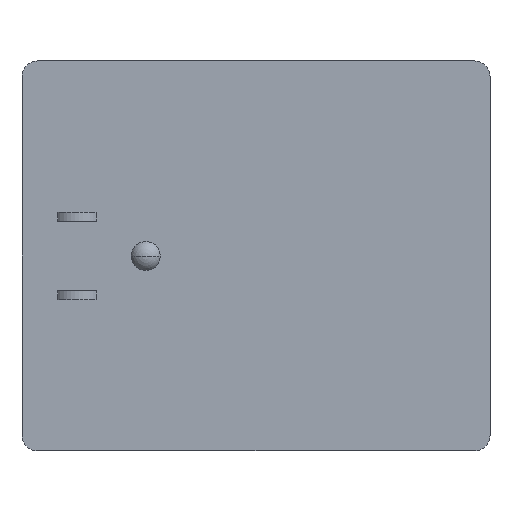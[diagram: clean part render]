
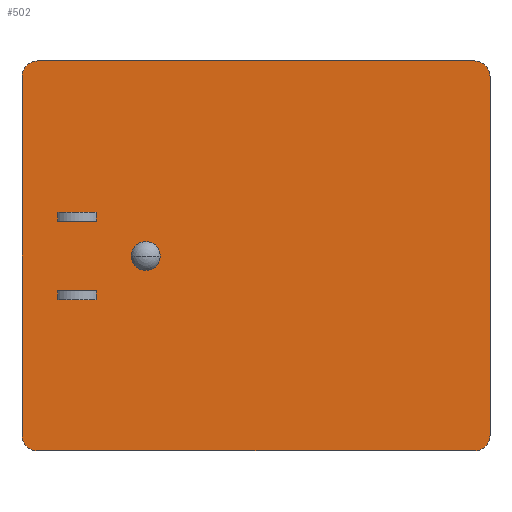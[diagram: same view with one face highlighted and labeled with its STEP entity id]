
A CAD part, front view. The second image highlights one B-rep face of the part: STEP entity #502.
In plain terms, the highlighted planar face has unit normal (0, -1, 0).
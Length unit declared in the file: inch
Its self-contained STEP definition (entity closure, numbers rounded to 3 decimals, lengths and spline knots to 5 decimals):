
#1=CARTESIAN_POINT('',(-1.4,0.,-1.15));
#2=DIRECTION('',(0.,-1.,0.));
#3=DIRECTION('',(-1.,0.,0.));
#4=AXIS2_PLACEMENT_3D('',#1,#2,#3);
#6=DIRECTION('',(0.,0.,1.));
#7=VECTOR('',#6,2.3);
#8=CARTESIAN_POINT('',(-1.5,0.,-1.15));
#9=LINE('',#8,#7);
#10=CARTESIAN_POINT('',(-1.4,0.,1.15));
#11=DIRECTION('',(0.,-1.,0.));
#12=DIRECTION('',(0.,0.,1.));
#13=AXIS2_PLACEMENT_3D('',#10,#11,#12);
#15=DIRECTION('',(1.,0.,0.));
#16=VECTOR('',#15,2.8);
#17=CARTESIAN_POINT('',(-1.4,0.,1.25));
#18=LINE('',#17,#16);
#19=CARTESIAN_POINT('',(1.4,0.,1.15));
#20=DIRECTION('',(0.,-1.,0.));
#21=DIRECTION('',(1.,0.,0.));
#22=AXIS2_PLACEMENT_3D('',#19,#20,#21);
#24=DIRECTION('',(0.,0.,-1.));
#25=VECTOR('',#24,2.3);
#26=CARTESIAN_POINT('',(1.5,0.,1.15));
#27=LINE('',#26,#25);
#28=CARTESIAN_POINT('',(1.4,0.,-1.15));
#29=DIRECTION('',(0.,-1.,0.));
#30=DIRECTION('',(0.,0.,-1.));
#31=AXIS2_PLACEMENT_3D('',#28,#29,#30);
#33=DIRECTION('',(-1.,0.,0.));
#34=VECTOR('',#33,2.8);
#35=CARTESIAN_POINT('',(1.4,0.,-1.25));
#36=LINE('',#35,#34);
#37=CARTESIAN_POINT('',(-0.7065,0.,0.));
#38=DIRECTION('',(0.,-1.,0.));
#39=DIRECTION('',(1.,0.,0.));
#40=AXIS2_PLACEMENT_3D('',#37,#38,#39);
#42=CARTESIAN_POINT('',(-0.7065,0.,0.));
#43=DIRECTION('',(0.,-1.,0.));
#44=DIRECTION('',(-1.,0.,0.));
#45=AXIS2_PLACEMENT_3D('',#42,#43,#44);
#47=DIRECTION('',(0.,0.,-1.));
#48=VECTOR('',#47,0.056);
#49=CARTESIAN_POINT('',(-1.271,0.,0.279));
#50=LINE('',#49,#48);
#51=DIRECTION('',(1.,0.,0.));
#52=VECTOR('',#51,0.246);
#53=CARTESIAN_POINT('',(-1.271,0.,0.223));
#54=LINE('',#53,#52);
#55=DIRECTION('',(0.,0.,1.));
#56=VECTOR('',#55,0.056);
#57=CARTESIAN_POINT('',(-1.025,0.,0.223));
#58=LINE('',#57,#56);
#59=DIRECTION('',(-1.,0.,0.));
#60=VECTOR('',#59,0.246);
#61=CARTESIAN_POINT('',(-1.025,0.,0.279));
#62=LINE('',#61,#60);
#63=DIRECTION('',(0.,0.,-1.));
#64=VECTOR('',#63,0.056);
#65=CARTESIAN_POINT('',(-1.271,0.,-0.223));
#66=LINE('',#65,#64);
#67=DIRECTION('',(1.,0.,0.));
#68=VECTOR('',#67,0.246);
#69=CARTESIAN_POINT('',(-1.271,0.,-0.279));
#70=LINE('',#69,#68);
#71=DIRECTION('',(0.,0.,1.));
#72=VECTOR('',#71,0.056);
#73=CARTESIAN_POINT('',(-1.025,0.,-0.279));
#74=LINE('',#73,#72);
#75=DIRECTION('',(-1.,0.,0.));
#76=VECTOR('',#75,0.246);
#77=CARTESIAN_POINT('',(-1.025,0.,-0.223));
#78=LINE('',#77,#76);
#355=CARTESIAN_POINT('',(-0.614,0.,0.));
#356=CARTESIAN_POINT('',(-0.799,0.,0.));
#357=VERTEX_POINT('',#355);
#358=VERTEX_POINT('',#356);
#359=CARTESIAN_POINT('',(-1.271,0.,0.279));
#360=CARTESIAN_POINT('',(-1.271,0.,0.223));
#361=VERTEX_POINT('',#359);
#362=VERTEX_POINT('',#360);
#363=CARTESIAN_POINT('',(-1.025,0.,0.223));
#364=VERTEX_POINT('',#363);
#365=CARTESIAN_POINT('',(-1.025,0.,0.279));
#366=VERTEX_POINT('',#365);
#367=CARTESIAN_POINT('',(-1.271,0.,-0.223));
#368=CARTESIAN_POINT('',(-1.271,0.,-0.279));
#369=VERTEX_POINT('',#367);
#370=VERTEX_POINT('',#368);
#371=CARTESIAN_POINT('',(-1.025,0.,-0.279));
#372=VERTEX_POINT('',#371);
#373=CARTESIAN_POINT('',(-1.025,0.,-0.223));
#374=VERTEX_POINT('',#373);
#421=CARTESIAN_POINT('',(-1.5,0.,-1.15));
#422=CARTESIAN_POINT('',(-1.4,0.,-1.25));
#423=VERTEX_POINT('',#421);
#424=VERTEX_POINT('',#422);
#431=CARTESIAN_POINT('',(1.4,0.,-1.25));
#432=CARTESIAN_POINT('',(1.5,0.,-1.15));
#433=VERTEX_POINT('',#431);
#434=VERTEX_POINT('',#432);
#441=CARTESIAN_POINT('',(1.5,0.,1.15));
#442=CARTESIAN_POINT('',(1.4,0.,1.25));
#443=VERTEX_POINT('',#441);
#444=VERTEX_POINT('',#442);
#449=CARTESIAN_POINT('',(-1.4,0.,1.25));
#450=CARTESIAN_POINT('',(-1.5,0.,1.15));
#451=VERTEX_POINT('',#449);
#452=VERTEX_POINT('',#450);
#453=CARTESIAN_POINT('',(0.,0.,0.));
#454=DIRECTION('',(0.,1.,0.));
#455=DIRECTION('',(1.,0.,0.));
#456=AXIS2_PLACEMENT_3D('',#453,#454,#455);
#457=PLANE('',#456);
#459=ORIENTED_EDGE('',*,*,#458,.F.);
#461=ORIENTED_EDGE('',*,*,#460,.T.);
#463=ORIENTED_EDGE('',*,*,#462,.F.);
#465=ORIENTED_EDGE('',*,*,#464,.T.);
#467=ORIENTED_EDGE('',*,*,#466,.F.);
#469=ORIENTED_EDGE('',*,*,#468,.T.);
#471=ORIENTED_EDGE('',*,*,#470,.F.);
#473=ORIENTED_EDGE('',*,*,#472,.T.);
#474=EDGE_LOOP('',(#459,#461,#463,#465,#467,#469,#471,#473));
#475=FACE_OUTER_BOUND('',#474,.F.);
#477=ORIENTED_EDGE('',*,*,#476,.T.);
#479=ORIENTED_EDGE('',*,*,#478,.T.);
#480=EDGE_LOOP('',(#477,#479));
#481=FACE_BOUND('',#480,.F.);
#483=ORIENTED_EDGE('',*,*,#482,.T.);
#485=ORIENTED_EDGE('',*,*,#484,.T.);
#487=ORIENTED_EDGE('',*,*,#486,.T.);
#489=ORIENTED_EDGE('',*,*,#488,.T.);
#490=EDGE_LOOP('',(#483,#485,#487,#489));
#491=FACE_BOUND('',#490,.F.);
#493=ORIENTED_EDGE('',*,*,#492,.T.);
#495=ORIENTED_EDGE('',*,*,#494,.T.);
#497=ORIENTED_EDGE('',*,*,#496,.T.);
#499=ORIENTED_EDGE('',*,*,#498,.T.);
#500=EDGE_LOOP('',(#493,#495,#497,#499));
#501=FACE_BOUND('',#500,.F.);
#502=ADVANCED_FACE('',(#475,#481,#491,#501),#457,.F.);
#5=CIRCLE('',#4,0.1);
#14=CIRCLE('',#13,0.1);
#23=CIRCLE('',#22,0.1);
#32=CIRCLE('',#31,0.1);
#41=CIRCLE('',#40,0.0925);
#46=CIRCLE('',#45,0.0925);
#458=EDGE_CURVE('',#423,#424,#5,.T.);
#460=EDGE_CURVE('',#423,#452,#9,.T.);
#462=EDGE_CURVE('',#451,#452,#14,.T.);
#464=EDGE_CURVE('',#451,#444,#18,.T.);
#466=EDGE_CURVE('',#443,#444,#23,.T.);
#468=EDGE_CURVE('',#443,#434,#27,.T.);
#470=EDGE_CURVE('',#433,#434,#32,.T.);
#472=EDGE_CURVE('',#433,#424,#36,.T.);
#476=EDGE_CURVE('',#357,#358,#41,.T.);
#478=EDGE_CURVE('',#358,#357,#46,.T.);
#482=EDGE_CURVE('',#361,#362,#50,.T.);
#484=EDGE_CURVE('',#362,#364,#54,.T.);
#486=EDGE_CURVE('',#364,#366,#58,.T.);
#488=EDGE_CURVE('',#366,#361,#62,.T.);
#492=EDGE_CURVE('',#369,#370,#66,.T.);
#494=EDGE_CURVE('',#370,#372,#70,.T.);
#496=EDGE_CURVE('',#372,#374,#74,.T.);
#498=EDGE_CURVE('',#374,#369,#78,.T.);
